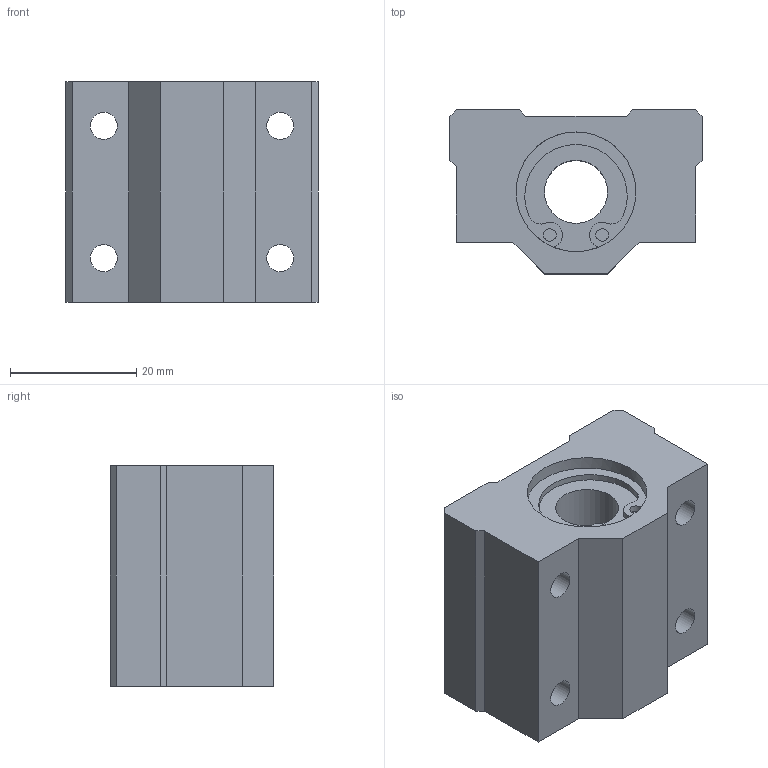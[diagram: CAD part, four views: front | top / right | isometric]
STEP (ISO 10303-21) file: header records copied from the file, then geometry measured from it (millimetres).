
FILE_DESCRIPTION(('STEP AP203'),'1');
FILE_NAME('//192.168.1.1/share/s-4 技術開発/s-4-4_CAD/s-4-4-3_見直し済み/008 修正済み/LC-A/LC-A_TOP/LC-10VAUU.step','2022-05-19T01:38:34',(' '),(' '),'Spatial InterOp 3D',' ',' ');
FILE_SCHEMA(('CONFIG_CONTROL_DESIGN'));
Length unit declared in the file: millimetre
Products named in the file (1): 1
Bounding box: 40 x 26 x 35 mm (x, y, z)
Volume: 25489.3 mm3; surface area: 8260.2 mm2
Topology: 1 solids, 1 shells, 53 faces, 135 edges, 90 vertices
Faces by surface type: plane 28, cylinder 25
Full cylindrical faces by diameter (mm): 2 x4, 4.3 x8, 10 x1, 19 x2
Entity records: 1552 total; most frequent: DIRECTION 270, CARTESIAN_POINT 252, ORIENTED_EDGE 228, EDGE_CURVE 114, AXIS2_PLACEMENT_3D 102, EDGE_LOOP 84, VERTEX_POINT 84, FACE_OUTER_BOUND 68
